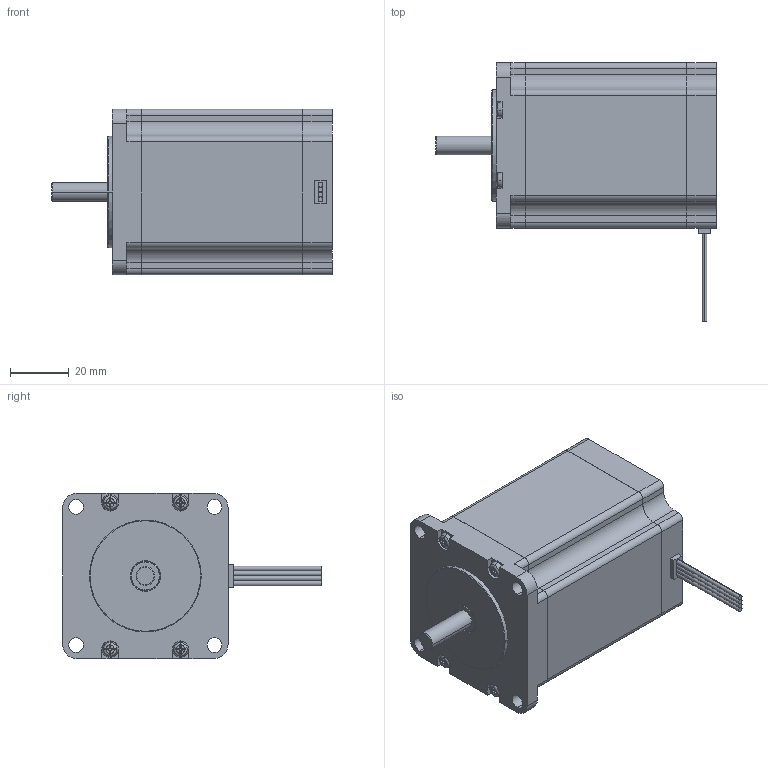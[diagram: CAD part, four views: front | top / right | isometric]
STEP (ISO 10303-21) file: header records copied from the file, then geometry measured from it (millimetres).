
FILE_DESCRIPTION (( 'STEP AP203' ), '1' );
FILE_NAME ('C-57STM04_203.STEP', '2021-08-06T09:03:41', ( '' ), ( '' ), 'SwSTEP 2.0', 'SolidWorks 2017', '' );
FILE_SCHEMA (( 'CONFIG_CONTROL_DESIGN' ));
Length unit declared in the file: millimetre
Products named in the file (1): C-57STM04_203
Bounding box: 95.6 x 88.2 x 56.4 mm (x, y, z)
Volume: 218278 mm3; surface area: 23772.8 mm2
Topology: 1 solids, 1 shells, 374 faces, 1024 edges, 670 vertices
Faces by surface type: plane 148, cylinder 106, cone 64, torus 56
Entity records: 12563 total; most frequent: CARTESIAN_POINT 3021, ORIENTED_EDGE 2048, DIRECTION 1956, EDGE_CURVE 1024, AXIS2_PLACEMENT_3D 765, VERTEX_POINT 670, VECTOR 426, LINE 426
